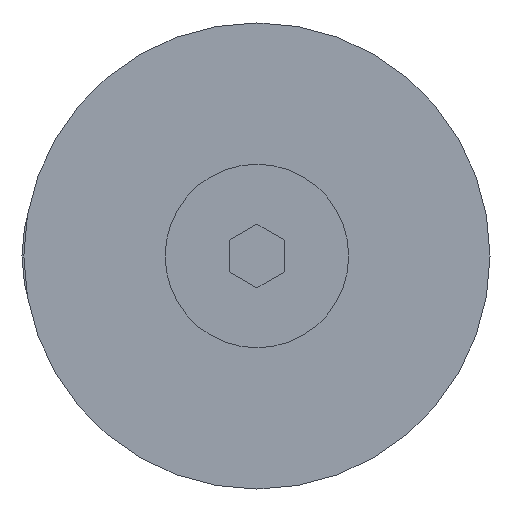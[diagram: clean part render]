
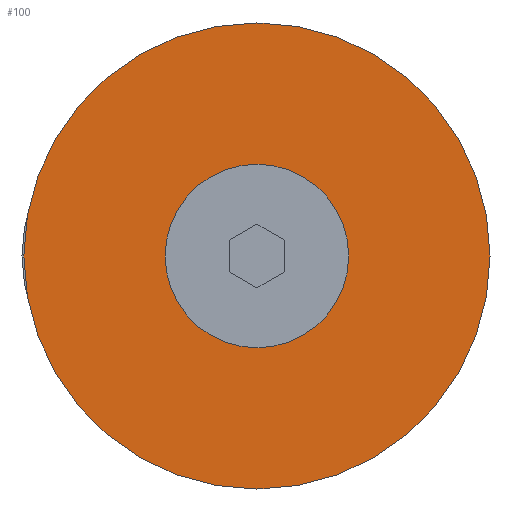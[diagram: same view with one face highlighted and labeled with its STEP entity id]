
A CAD part, front view. The second image highlights one B-rep face of the part: STEP entity #100.
In plain terms, the highlighted planar face has unit normal (0, -1, 0).
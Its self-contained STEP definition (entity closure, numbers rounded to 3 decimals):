
#100=ADVANCED_FACE('',(#172,#173),#174,.F.);
#172=FACE_OUTER_BOUND('',#265,.T.);
#173=FACE_BOUND('',#266,.T.);
#174=PLANE('',#267);
#265=EDGE_LOOP('',(#492,#493));
#266=EDGE_LOOP('',(#494,#495));
#267=AXIS2_PLACEMENT_3D('',#496,#497,#498);
#492=ORIENTED_EDGE('',*,*,#642,.T.);
#493=ORIENTED_EDGE('',*,*,#661,.T.);
#494=ORIENTED_EDGE('',*,*,#660,.F.);
#495=ORIENTED_EDGE('',*,*,#644,.F.);
#496=CARTESIAN_POINT('',(-4.45,-4.0,0.0));
#497=DIRECTION('',(0.0,1.0,0.0));
#498=DIRECTION('',(1.0,0.0,-0.0));
#642=EDGE_CURVE('',#748,#750,#752,.T.);
#644=EDGE_CURVE('',#753,#756,#757,.T.);
#660=EDGE_CURVE('',#756,#753,#782,.T.);
#661=EDGE_CURVE('',#750,#748,#783,.T.);
#748=VERTEX_POINT('',#914);
#750=VERTEX_POINT('',#917);
#752=CIRCLE('',#920,6.35);
#753=VERTEX_POINT('',#921);
#756=VERTEX_POINT('',#925);
#757=CIRCLE('',#926,2.5);
#782=CIRCLE('',#956,2.5);
#783=CIRCLE('',#957,6.35);
#914=CARTESIAN_POINT('',(1.9,-4.0,-6.35));
#917=CARTESIAN_POINT('',(1.9,-4.0,6.35));
#920=AXIS2_PLACEMENT_3D('',#1136,#1137,#1138);
#921=CARTESIAN_POINT('',(1.9,-4.0,-2.5));
#925=CARTESIAN_POINT('',(1.9,-4.0,2.5));
#926=AXIS2_PLACEMENT_3D('',#1140,#1141,#1142);
#956=AXIS2_PLACEMENT_3D('',#1178,#1179,#1180);
#957=AXIS2_PLACEMENT_3D('',#1181,#1182,#1183);
#1136=CARTESIAN_POINT('',(1.9,-4.0,0.0));
#1137=DIRECTION('',(0.0,-1.0,0.0));
#1138=DIRECTION('',(0.0,0.0,-1.0));
#1140=CARTESIAN_POINT('',(1.9,-4.0,0.0));
#1141=DIRECTION('',(0.0,-1.0,0.0));
#1142=DIRECTION('',(0.0,0.0,-1.0));
#1178=CARTESIAN_POINT('',(1.9,-4.0,0.0));
#1179=DIRECTION('',(0.0,-1.0,0.0));
#1180=DIRECTION('',(0.0,0.0,-1.0));
#1181=CARTESIAN_POINT('',(1.9,-4.0,0.0));
#1182=DIRECTION('',(0.0,-1.0,0.0));
#1183=DIRECTION('',(0.0,0.0,-1.0));
